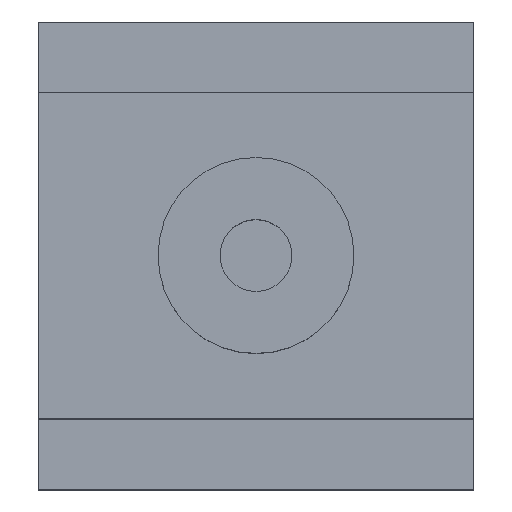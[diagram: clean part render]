
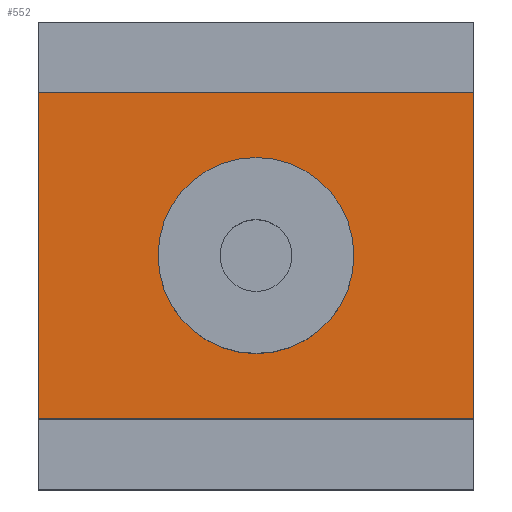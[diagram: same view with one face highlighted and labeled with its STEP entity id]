
A CAD part, top view. The second image highlights one B-rep face of the part: STEP entity #552.
In plain terms, the highlighted planar face has unit normal (0, 0, 1).
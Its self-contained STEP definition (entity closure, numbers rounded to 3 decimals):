
#32 = PLANE('',#33);
#33 = AXIS2_PLACEMENT_3D('',#34,#35,#36);
#34 = CARTESIAN_POINT('',(10.,-21.5,4.5));
#35 = DIRECTION('',(1.,0.,0.));
#36 = DIRECTION('',(0.,0.,1.));
#141 = VERTEX_POINT('',#142);
#142 = CARTESIAN_POINT('',(10.,15.,22.));
#156 = PLANE('',#157);
#157 = AXIS2_PLACEMENT_3D('',#158,#159,#160);
#158 = CARTESIAN_POINT('',(10.,15.,8.5));
#159 = DIRECTION('',(0.,1.,0.));
#160 = DIRECTION('',(0.,0.,1.));
#168 = EDGE_CURVE('',#169,#141,#171,.T.);
#169 = VERTEX_POINT('',#170);
#170 = CARTESIAN_POINT('',(10.,-15.,22.));
#171 = SURFACE_CURVE('',#172,(#176,#183),.PCURVE_S1.);
#172 = LINE('',#173,#174);
#173 = CARTESIAN_POINT('',(10.,-15.,22.));
#174 = VECTOR('',#175,1.);
#175 = DIRECTION('',(0.,1.,0.));
#176 = PCURVE('',#32,#177);
#177 = DEFINITIONAL_REPRESENTATION('',(#178),#182);
#178 = LINE('',#179,#180);
#179 = CARTESIAN_POINT('',(17.5,-6.5));
#180 = VECTOR('',#181,1.);
#181 = DIRECTION('',(0.,-1.));
#182 = ( GEOMETRIC_REPRESENTATION_CONTEXT(2) 
PARAMETRIC_REPRESENTATION_CONTEXT() REPRESENTATION_CONTEXT('2D SPACE',''
  ) );
#183 = PCURVE('',#184,#189);
#184 = PLANE('',#185);
#185 = AXIS2_PLACEMENT_3D('',#186,#187,#188);
#186 = CARTESIAN_POINT('',(10.,-15.,22.));
#187 = DIRECTION('',(0.,0.,1.));
#188 = DIRECTION('',(1.,0.,0.));
#189 = DEFINITIONAL_REPRESENTATION('',(#190),#194);
#190 = LINE('',#191,#192);
#191 = CARTESIAN_POINT('',(0.,0.));
#192 = VECTOR('',#193,1.);
#193 = DIRECTION('',(0.,1.));
#194 = ( GEOMETRIC_REPRESENTATION_CONTEXT(2) 
PARAMETRIC_REPRESENTATION_CONTEXT() REPRESENTATION_CONTEXT('2D SPACE',''
  ) );
#212 = PLANE('',#213);
#213 = AXIS2_PLACEMENT_3D('',#214,#215,#216);
#214 = CARTESIAN_POINT('',(10.,-15.,8.5));
#215 = DIRECTION('',(0.,1.,0.));
#216 = DIRECTION('',(0.,0.,1.));
#314 = PLANE('',#315);
#315 = AXIS2_PLACEMENT_3D('',#316,#317,#318);
#316 = CARTESIAN_POINT('',(50.,-21.5,4.5));
#317 = DIRECTION('',(1.,0.,0.));
#318 = DIRECTION('',(0.,0.,1.));
#478 = EDGE_CURVE('',#141,#479,#481,.T.);
#479 = VERTEX_POINT('',#480);
#480 = CARTESIAN_POINT('',(50.,15.,22.));
#481 = SURFACE_CURVE('',#482,(#486,#493),.PCURVE_S1.);
#482 = LINE('',#483,#484);
#483 = CARTESIAN_POINT('',(10.,15.,22.));
#484 = VECTOR('',#485,1.);
#485 = DIRECTION('',(1.,0.,0.));
#486 = PCURVE('',#156,#487);
#487 = DEFINITIONAL_REPRESENTATION('',(#488),#492);
#488 = LINE('',#489,#490);
#489 = CARTESIAN_POINT('',(13.5,0.));
#490 = VECTOR('',#491,1.);
#491 = DIRECTION('',(0.,1.));
#492 = ( GEOMETRIC_REPRESENTATION_CONTEXT(2) 
PARAMETRIC_REPRESENTATION_CONTEXT() REPRESENTATION_CONTEXT('2D SPACE',''
  ) );
#493 = PCURVE('',#184,#494);
#494 = DEFINITIONAL_REPRESENTATION('',(#495),#499);
#495 = LINE('',#496,#497);
#496 = CARTESIAN_POINT('',(0.,30.));
#497 = VECTOR('',#498,1.);
#498 = DIRECTION('',(1.,0.));
#499 = ( GEOMETRIC_REPRESENTATION_CONTEXT(2) 
PARAMETRIC_REPRESENTATION_CONTEXT() REPRESENTATION_CONTEXT('2D SPACE',''
  ) );
#552 = ADVANCED_FACE('',(#553,#601),#184,.T.);
#553 = FACE_BOUND('',#554,.T.);
#554 = EDGE_LOOP('',(#555,#556,#579,#600));
#555 = ORIENTED_EDGE('',*,*,#168,.F.);
#556 = ORIENTED_EDGE('',*,*,#557,.T.);
#557 = EDGE_CURVE('',#169,#558,#560,.T.);
#558 = VERTEX_POINT('',#559);
#559 = CARTESIAN_POINT('',(50.,-15.,22.));
#560 = SURFACE_CURVE('',#561,(#565,#572),.PCURVE_S1.);
#561 = LINE('',#562,#563);
#562 = CARTESIAN_POINT('',(10.,-15.,22.));
#563 = VECTOR('',#564,1.);
#564 = DIRECTION('',(1.,0.,0.));
#565 = PCURVE('',#184,#566);
#566 = DEFINITIONAL_REPRESENTATION('',(#567),#571);
#567 = LINE('',#568,#569);
#568 = CARTESIAN_POINT('',(0.,0.));
#569 = VECTOR('',#570,1.);
#570 = DIRECTION('',(1.,0.));
#571 = ( GEOMETRIC_REPRESENTATION_CONTEXT(2) 
PARAMETRIC_REPRESENTATION_CONTEXT() REPRESENTATION_CONTEXT('2D SPACE',''
  ) );
#572 = PCURVE('',#212,#573);
#573 = DEFINITIONAL_REPRESENTATION('',(#574),#578);
#574 = LINE('',#575,#576);
#575 = CARTESIAN_POINT('',(13.5,0.));
#576 = VECTOR('',#577,1.);
#577 = DIRECTION('',(0.,1.));
#578 = ( GEOMETRIC_REPRESENTATION_CONTEXT(2) 
PARAMETRIC_REPRESENTATION_CONTEXT() REPRESENTATION_CONTEXT('2D SPACE',''
  ) );
#579 = ORIENTED_EDGE('',*,*,#580,.T.);
#580 = EDGE_CURVE('',#558,#479,#581,.T.);
#581 = SURFACE_CURVE('',#582,(#586,#593),.PCURVE_S1.);
#582 = LINE('',#583,#584);
#583 = CARTESIAN_POINT('',(50.,-15.,22.));
#584 = VECTOR('',#585,1.);
#585 = DIRECTION('',(0.,1.,0.));
#586 = PCURVE('',#184,#587);
#587 = DEFINITIONAL_REPRESENTATION('',(#588),#592);
#588 = LINE('',#589,#590);
#589 = CARTESIAN_POINT('',(40.,0.));
#590 = VECTOR('',#591,1.);
#591 = DIRECTION('',(0.,1.));
#592 = ( GEOMETRIC_REPRESENTATION_CONTEXT(2) 
PARAMETRIC_REPRESENTATION_CONTEXT() REPRESENTATION_CONTEXT('2D SPACE',''
  ) );
#593 = PCURVE('',#314,#594);
#594 = DEFINITIONAL_REPRESENTATION('',(#595),#599);
#595 = LINE('',#596,#597);
#596 = CARTESIAN_POINT('',(17.5,-6.5));
#597 = VECTOR('',#598,1.);
#598 = DIRECTION('',(0.,-1.));
#599 = ( GEOMETRIC_REPRESENTATION_CONTEXT(2) 
PARAMETRIC_REPRESENTATION_CONTEXT() REPRESENTATION_CONTEXT('2D SPACE',''
  ) );
#600 = ORIENTED_EDGE('',*,*,#478,.F.);
#601 = FACE_BOUND('',#602,.T.);
#602 = EDGE_LOOP('',(#603));
#603 = ORIENTED_EDGE('',*,*,#604,.F.);
#604 = EDGE_CURVE('',#605,#605,#607,.T.);
#605 = VERTEX_POINT('',#606);
#606 = CARTESIAN_POINT('',(39.,0.,22.));
#607 = SURFACE_CURVE('',#608,(#613,#620),.PCURVE_S1.);
#608 = CIRCLE('',#609,9.);
#609 = AXIS2_PLACEMENT_3D('',#610,#611,#612);
#610 = CARTESIAN_POINT('',(30.,0.,22.));
#611 = DIRECTION('',(0.,0.,1.));
#612 = DIRECTION('',(1.,0.,-0.));
#613 = PCURVE('',#184,#614);
#614 = DEFINITIONAL_REPRESENTATION('',(#615),#619);
#615 = CIRCLE('',#616,9.);
#616 = AXIS2_PLACEMENT_2D('',#617,#618);
#617 = CARTESIAN_POINT('',(20.,15.));
#618 = DIRECTION('',(1.,0.));
#619 = ( GEOMETRIC_REPRESENTATION_CONTEXT(2) 
PARAMETRIC_REPRESENTATION_CONTEXT() REPRESENTATION_CONTEXT('2D SPACE',''
  ) );
#620 = PCURVE('',#621,#626);
#621 = CYLINDRICAL_SURFACE('',#622,9.);
#622 = AXIS2_PLACEMENT_3D('',#623,#624,#625);
#623 = CARTESIAN_POINT('',(30.,0.,22.));
#624 = DIRECTION('',(0.,0.,1.));
#625 = DIRECTION('',(1.,0.,-0.));
#626 = DEFINITIONAL_REPRESENTATION('',(#627),#631);
#627 = LINE('',#628,#629);
#628 = CARTESIAN_POINT('',(0.,0.));
#629 = VECTOR('',#630,1.);
#630 = DIRECTION('',(1.,0.));
#631 = ( GEOMETRIC_REPRESENTATION_CONTEXT(2) 
PARAMETRIC_REPRESENTATION_CONTEXT() REPRESENTATION_CONTEXT('2D SPACE',''
  ) );
